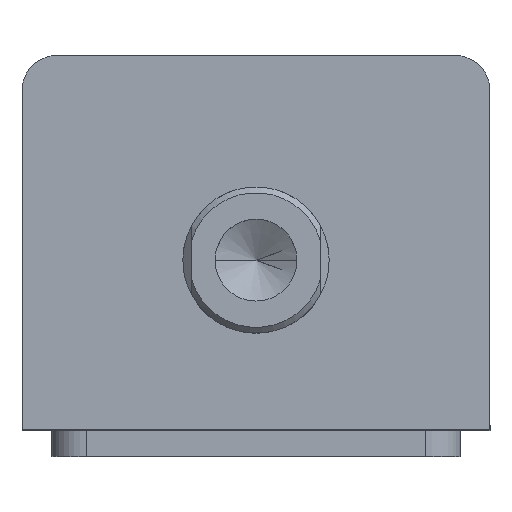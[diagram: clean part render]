
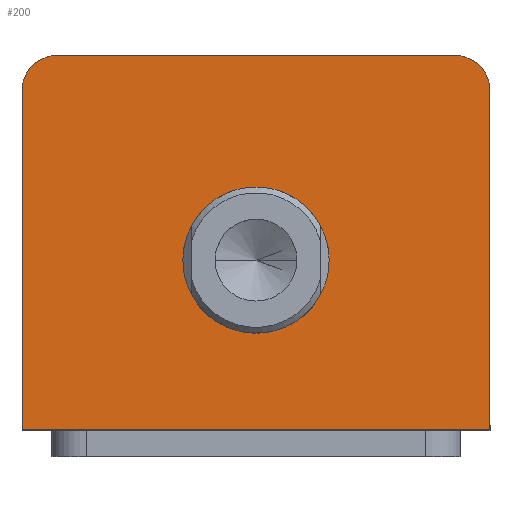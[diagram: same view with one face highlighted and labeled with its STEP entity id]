
A CAD part, top view. The second image highlights one B-rep face of the part: STEP entity #200.
In plain terms, the highlighted planar face has unit normal (0, 0, 1).
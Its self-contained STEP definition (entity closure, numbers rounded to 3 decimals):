
#200 = ADVANCED_FACE ( 'NONE', ( #1721, #1730 ), #2070, .T. ) ;
#489 = DIRECTION ( 'NONE',  ( 0., 0., 1. ) ) ;
#490 = CARTESIAN_POINT ( 'NONE',  ( 0., -3., 90. ) ) ;
#494 = DIRECTION ( 'NONE',  ( 1., 0., 0. ) ) ;
#627 = ORIENTED_EDGE ( 'NONE', *, *, #1257, .T. ) ;
#628 = ORIENTED_EDGE ( 'NONE', *, *, #1227, .T. ) ;
#629 = ORIENTED_EDGE ( 'NONE', *, *, #1212, .T. ) ;
#630 = ORIENTED_EDGE ( 'NONE', *, *, #1270, .T. ) ;
#631 = ORIENTED_EDGE ( 'NONE', *, *, #1266, .T. ) ;
#632 = ORIENTED_EDGE ( 'NONE', *, *, #1244, .T. ) ;
#633 = ORIENTED_EDGE ( 'NONE', *, *, #1184, .F. ) ;
#634 = ORIENTED_EDGE ( 'NONE', *, *, #1283, .F. ) ;
#852 = VERTEX_POINT ( 'NONE', #2658 ) ;
#866 = VERTEX_POINT ( 'NONE', #2644 ) ;
#906 = VERTEX_POINT ( 'NONE', #2604 ) ;
#939 = VERTEX_POINT ( 'NONE', #2571 ) ;
#972 = VERTEX_POINT ( 'NONE', #2536 ) ;
#975 = VERTEX_POINT ( 'NONE', #2533 ) ;
#988 = VERTEX_POINT ( 'NONE', #2520 ) ;
#996 = VERTEX_POINT ( 'NONE', #2509 ) ;
#1096 = EDGE_LOOP ( 'NONE', ( #632, #631, #630, #629, #628, #627 ) ) ;
#1100 = EDGE_LOOP ( 'NONE', ( #634, #633 ) ) ;
#1147 = AXIS2_PLACEMENT_3D ( 'NONE', #2068, #2090, #2069 ) ;
#1184 = EDGE_CURVE ( 'NONE', #996, #988, #1815, .T. ) ;
#1212 = EDGE_CURVE ( 'NONE', #972, #975, #1853, .T. ) ;
#1227 = EDGE_CURVE ( 'NONE', #975, #939, #1887, .T. ) ;
#1244 = EDGE_CURVE ( 'NONE', #906, #866, #3171, .T. ) ;
#1257 = EDGE_CURVE ( 'NONE', #939, #906, #3188, .T. ) ;
#1266 = EDGE_CURVE ( 'NONE', #866, #852, #3203, .T. ) ;
#1270 = EDGE_CURVE ( 'NONE', #852, #972, #3209, .T. ) ;
#1283 = EDGE_CURVE ( 'NONE', #988, #996, #3237, .T. ) ;
#1443 = AXIS2_PLACEMENT_3D ( 'NONE', #3530, #3526, #3508 ) ;
#1721 = FACE_BOUND ( 'NONE', #1100, .T. ) ;
#1730 = FACE_OUTER_BOUND ( 'NONE', #1096, .T. ) ;
#1815 = CIRCLE ( 'NONE', #1443, 12.5 ) ;
#1853 = LINE ( 'NONE', #3071, #1860 ) ;
#1860 = VECTOR ( 'NONE', #3567, 1000. ) ;
#1887 = LINE ( 'NONE', #3524, #1890 ) ;
#1890 = VECTOR ( 'NONE', #3523, 1000. ) ;
#1968 = AXIS2_PLACEMENT_3D ( 'NONE', #3127, #3126, #3125 ) ;
#1981 = AXIS2_PLACEMENT_3D ( 'NONE', #490, #489, #494 ) ;
#1983 = AXIS2_PLACEMENT_3D ( 'NONE', #3078, #3077, #3076 ) ;
#2068 = CARTESIAN_POINT ( 'NONE',  ( 0., 0., 90. ) ) ;
#2069 = DIRECTION ( 'NONE',  ( 1., 0., 0. ) ) ;
#2070 = PLANE ( 'NONE',  #1147 ) ;
#2090 = DIRECTION ( 'NONE',  ( 0., 0., 1. ) ) ;
#2509 = CARTESIAN_POINT ( 'NONE',  ( -12.5, -3., 90. ) ) ;
#2520 = CARTESIAN_POINT ( 'NONE',  ( 12.5, -3., 90. ) ) ;
#2533 = CARTESIAN_POINT ( 'NONE',  ( 40., -32., 90. ) ) ;
#2536 = CARTESIAN_POINT ( 'NONE',  ( -40., -32., 90. ) ) ;
#2571 = CARTESIAN_POINT ( 'NONE',  ( 40., 26., 90. ) ) ;
#2604 = CARTESIAN_POINT ( 'NONE',  ( 34., 32., 90. ) ) ;
#2644 = CARTESIAN_POINT ( 'NONE',  ( -34., 32., 90. ) ) ;
#2658 = CARTESIAN_POINT ( 'NONE',  ( -40., 26., 90. ) ) ;
#3063 = DIRECTION ( 'NONE',  ( 0., -1., 0. ) ) ;
#3064 = CARTESIAN_POINT ( 'NONE',  ( -40., 32., 90. ) ) ;
#3071 = CARTESIAN_POINT ( 'NONE',  ( -40., -32., 90. ) ) ;
#3076 = DIRECTION ( 'NONE',  ( 1., 0., 0. ) ) ;
#3077 = DIRECTION ( 'NONE',  ( 0., 0., 1. ) ) ;
#3078 = CARTESIAN_POINT ( 'NONE',  ( -34., 26., 90. ) ) ;
#3125 = DIRECTION ( 'NONE',  ( 1., 0., 0. ) ) ;
#3126 = DIRECTION ( 'NONE',  ( 0., 0., 1. ) ) ;
#3127 = CARTESIAN_POINT ( 'NONE',  ( 34., 26., 90. ) ) ;
#3171 = LINE ( 'NONE', #3322, #3175 ) ;
#3175 = VECTOR ( 'NONE', #3308, 1000. ) ;
#3188 = CIRCLE ( 'NONE', #1968, 6. ) ;
#3203 = CIRCLE ( 'NONE', #1983, 6. ) ;
#3209 = LINE ( 'NONE', #3064, #3212 ) ;
#3212 = VECTOR ( 'NONE', #3063, 1000. ) ;
#3237 = CIRCLE ( 'NONE', #1981, 12.5 ) ;
#3308 = DIRECTION ( 'NONE',  ( -1., 0., 0. ) ) ;
#3322 = CARTESIAN_POINT ( 'NONE',  ( -40., 32., 90. ) ) ;
#3508 = DIRECTION ( 'NONE',  ( 1., 0., 0. ) ) ;
#3523 = DIRECTION ( 'NONE',  ( 0., 1., 0. ) ) ;
#3524 = CARTESIAN_POINT ( 'NONE',  ( 40., 32., 90. ) ) ;
#3526 = DIRECTION ( 'NONE',  ( 0., 0., 1. ) ) ;
#3530 = CARTESIAN_POINT ( 'NONE',  ( 0., -3., 90. ) ) ;
#3567 = DIRECTION ( 'NONE',  ( 1., 0., 0. ) ) ;
